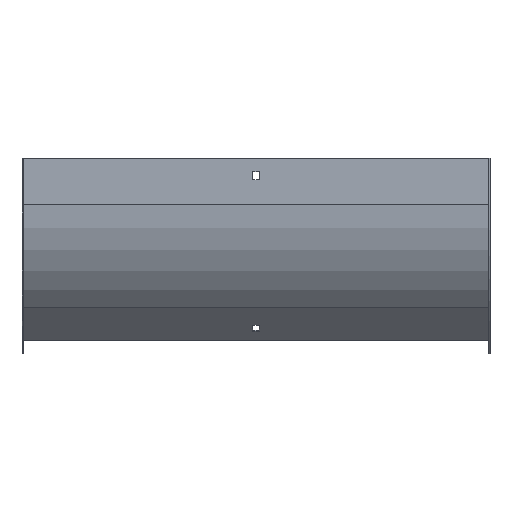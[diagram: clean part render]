
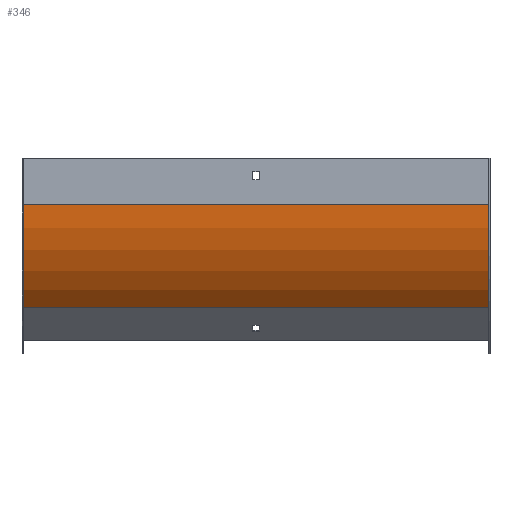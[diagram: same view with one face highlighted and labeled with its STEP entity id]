
A CAD part, front view. The second image highlights one B-rep face of the part: STEP entity #346.
In plain terms, the highlighted cylindrical face has radius 125 mm (diameter 250 mm), a partial arc.
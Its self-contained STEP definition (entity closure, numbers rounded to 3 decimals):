
#26 = VERTEX_POINT ( 'NONE', #547 ) ;
#30 = CARTESIAN_POINT ( 'NONE',  ( 200., -1., -40. ) ) ;
#59 = VERTEX_POINT ( 'NONE', #30 ) ;
#85 = VECTOR ( 'NONE', #668, 1000. ) ;
#124 = AXIS2_PLACEMENT_3D ( 'NONE', #497, #760, #238 ) ;
#150 = LINE ( 'NONE', #353, #85 ) ;
#234 = FACE_OUTER_BOUND ( 'NONE', #495, .T. ) ;
#237 = DIRECTION ( 'NONE',  ( -1., 0., 0. ) ) ;
#238 = DIRECTION ( 'NONE',  ( 0., 0., -1. ) ) ;
#268 = VECTOR ( 'NONE', #237, 1000. ) ;
#278 = AXIS2_PLACEMENT_3D ( 'NONE', #321, #593, #829 ) ;
#321 = CARTESIAN_POINT ( 'NONE',  ( 201., 124., -40. ) ) ;
#326 = ORIENTED_EDGE ( 'NONE', *, *, #635, .T. ) ;
#339 = CARTESIAN_POINT ( 'NONE',  ( 200., 124., -40. ) ) ;
#346 = ADVANCED_FACE ( 'NONE', ( #234 ), #837, .T. ) ;
#353 = CARTESIAN_POINT ( 'NONE',  ( 201., 35.612, -128.388 ) ) ;
#393 = EDGE_CURVE ( 'NONE', #780, #554, #429, .T. ) ;
#416 = CIRCLE ( 'NONE', #530, 125. ) ;
#429 = CIRCLE ( 'NONE', #124, 125. ) ;
#495 = EDGE_LOOP ( 'NONE', ( #584, #517, #724, #326 ) ) ;
#497 = CARTESIAN_POINT ( 'NONE',  ( -200., 124., -40. ) ) ;
#507 = CARTESIAN_POINT ( 'NONE',  ( 201., -1., -40. ) ) ;
#517 = ORIENTED_EDGE ( 'NONE', *, *, #821, .F. ) ;
#530 = AXIS2_PLACEMENT_3D ( 'NONE', #339, #855, #597 ) ;
#537 = CARTESIAN_POINT ( 'NONE',  ( -200., -1., -40. ) ) ;
#547 = CARTESIAN_POINT ( 'NONE',  ( 200., 35.612, -128.388 ) ) ;
#554 = VERTEX_POINT ( 'NONE', #537 ) ;
#584 = ORIENTED_EDGE ( 'NONE', *, *, #393, .F. ) ;
#593 = DIRECTION ( 'NONE',  ( -1., 0., 0. ) ) ;
#597 = DIRECTION ( 'NONE',  ( 0., 0., -1. ) ) ;
#598 = EDGE_CURVE ( 'NONE', #26, #59, #416, .T. ) ;
#635 = EDGE_CURVE ( 'NONE', #59, #554, #755, .T. ) ;
#668 = DIRECTION ( 'NONE',  ( -1., 0., 0. ) ) ;
#724 = ORIENTED_EDGE ( 'NONE', *, *, #598, .T. ) ;
#755 = LINE ( 'NONE', #507, #268 ) ;
#760 = DIRECTION ( 'NONE',  ( -1., 0., 0. ) ) ;
#780 = VERTEX_POINT ( 'NONE', #800 ) ;
#800 = CARTESIAN_POINT ( 'NONE',  ( -200., 35.612, -128.388 ) ) ;
#821 = EDGE_CURVE ( 'NONE', #26, #780, #150, .T. ) ;
#829 = DIRECTION ( 'NONE',  ( 0., 0., 1. ) ) ;
#837 = CYLINDRICAL_SURFACE ( 'NONE', #278, 125. ) ;
#855 = DIRECTION ( 'NONE',  ( -1., 0., 0. ) ) ;
